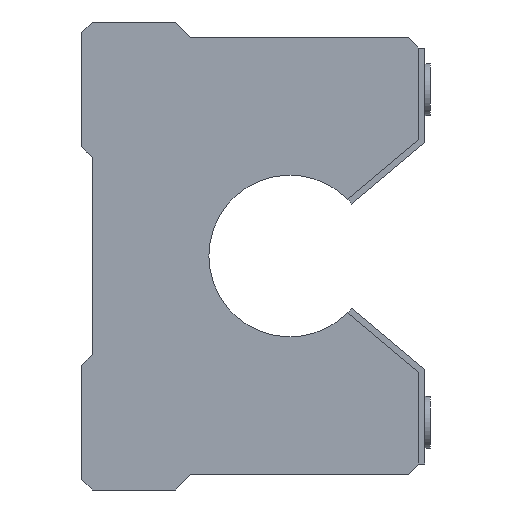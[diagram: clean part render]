
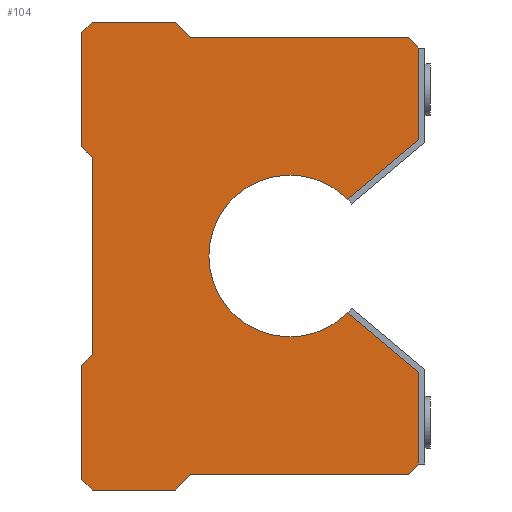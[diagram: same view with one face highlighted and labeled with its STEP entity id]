
A CAD part, left-side view. The second image highlights one B-rep face of the part: STEP entity #104.
In plain terms, the highlighted planar face has unit normal (-1, 0, 0).
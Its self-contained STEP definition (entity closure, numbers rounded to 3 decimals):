
#104 = ADVANCED_FACE( '', ( #264 ), #265, .F. );
#264 = FACE_OUTER_BOUND( '', #536, .T. );
#265 = PLANE( '', #537 );
#536 = EDGE_LOOP( '', ( #989, #990, #991, #992, #993, #994, #995, #996, #997, #998, #999, #1000, #1001, #1002, #1003, #1004, #1005, #1006, #1007, #1008 ) );
#537 = AXIS2_PLACEMENT_3D( '', #1009, #1010, #1011 );
#989 = ORIENTED_EDGE( '', *, *, #1823, .F. );
#990 = ORIENTED_EDGE( '', *, *, #1862, .F. );
#991 = ORIENTED_EDGE( '', *, *, #1857, .F. );
#992 = ORIENTED_EDGE( '', *, *, #1854, .F. );
#993 = ORIENTED_EDGE( '', *, *, #1851, .F. );
#994 = ORIENTED_EDGE( '', *, *, #1848, .F. );
#995 = ORIENTED_EDGE( '', *, *, #1843, .F. );
#996 = ORIENTED_EDGE( '', *, *, #1840, .F. );
#997 = ORIENTED_EDGE( '', *, *, #1837, .F. );
#998 = ORIENTED_EDGE( '', *, *, #1834, .F. );
#999 = ORIENTED_EDGE( '', *, *, #1831, .F. );
#1000 = ORIENTED_EDGE( '', *, *, #1785, .F. );
#1001 = ORIENTED_EDGE( '', *, *, #1782, .F. );
#1002 = ORIENTED_EDGE( '', *, *, #1794, .T. );
#1003 = ORIENTED_EDGE( '', *, *, #1828, .F. );
#1004 = ORIENTED_EDGE( '', *, *, #1830, .F. );
#1005 = ORIENTED_EDGE( '', *, *, #1809, .F. );
#1006 = ORIENTED_EDGE( '', *, *, #1814, .F. );
#1007 = ORIENTED_EDGE( '', *, *, #1817, .F. );
#1008 = ORIENTED_EDGE( '', *, *, #1820, .F. );
#1009 = CARTESIAN_POINT( '', ( -22.5, 0., 0. ) );
#1010 = DIRECTION( '', ( 1., 0., 0. ) );
#1011 = DIRECTION( '', ( 0., 0., -1. ) );
#1782 = EDGE_CURVE( '', #2135, #2137, #2138, .T. );
#1785 = EDGE_CURVE( '', #2137, #2141, #2142, .T. );
#1794 = EDGE_CURVE( '', #2135, #2156, #2157, .T. );
#1809 = EDGE_CURVE( '', #2181, #2182, #2183, .T. );
#1814 = EDGE_CURVE( '', #2190, #2181, #2191, .T. );
#1817 = EDGE_CURVE( '', #2195, #2190, #2196, .T. );
#1820 = EDGE_CURVE( '', #2200, #2195, #2201, .T. );
#1823 = EDGE_CURVE( '', #2205, #2200, #2206, .T. );
#1828 = EDGE_CURVE( '', #2212, #2156, #2214, .T. );
#1830 = EDGE_CURVE( '', #2182, #2212, #2216, .T. );
#1831 = EDGE_CURVE( '', #2141, #2217, #2218, .T. );
#1834 = EDGE_CURVE( '', #2217, #2222, #2223, .T. );
#1837 = EDGE_CURVE( '', #2222, #2227, #2228, .T. );
#1840 = EDGE_CURVE( '', #2227, #2232, #2233, .T. );
#1843 = EDGE_CURVE( '', #2232, #2237, #2238, .T. );
#1848 = EDGE_CURVE( '', #2237, #2246, #2247, .T. );
#1851 = EDGE_CURVE( '', #2246, #2251, #2252, .T. );
#1854 = EDGE_CURVE( '', #2251, #2256, #2257, .T. );
#1857 = EDGE_CURVE( '', #2256, #2261, #2262, .T. );
#1862 = EDGE_CURVE( '', #2261, #2205, #2270, .T. );
#2135 = VERTEX_POINT( '', #2692 );
#2137 = VERTEX_POINT( '', #2695 );
#2138 = LINE( '', #2696, #2697 );
#2141 = VERTEX_POINT( '', #2702 );
#2142 = LINE( '', #2703, #2704 );
#2156 = VERTEX_POINT( '', #2726 );
#2157 = CIRCLE( '', #2727, 7.779 );
#2181 = VERTEX_POINT( '', #2760 );
#2182 = VERTEX_POINT( '', #2761 );
#2183 = LINE( '', #2762, #2763 );
#2190 = VERTEX_POINT( '', #2774 );
#2191 = LINE( '', #2775, #2776 );
#2195 = VERTEX_POINT( '', #2782 );
#2196 = LINE( '', #2783, #2784 );
#2200 = VERTEX_POINT( '', #2790 );
#2201 = LINE( '', #2791, #2792 );
#2205 = VERTEX_POINT( '', #2798 );
#2206 = LINE( '', #2799, #2800 );
#2212 = VERTEX_POINT( '', #2809 );
#2214 = LINE( '', #2812, #2813 );
#2216 = LINE( '', #2816, #2817 );
#2217 = VERTEX_POINT( '', #2818 );
#2218 = LINE( '', #2819, #2820 );
#2222 = VERTEX_POINT( '', #2826 );
#2223 = LINE( '', #2827, #2828 );
#2227 = VERTEX_POINT( '', #2834 );
#2228 = LINE( '', #2835, #2836 );
#2232 = VERTEX_POINT( '', #2842 );
#2233 = LINE( '', #2843, #2844 );
#2237 = VERTEX_POINT( '', #2850 );
#2238 = LINE( '', #2851, #2852 );
#2246 = VERTEX_POINT( '', #2862 );
#2247 = LINE( '', #2863, #2864 );
#2251 = VERTEX_POINT( '', #2870 );
#2252 = LINE( '', #2871, #2872 );
#2256 = VERTEX_POINT( '', #2878 );
#2257 = LINE( '', #2879, #2880 );
#2261 = VERTEX_POINT( '', #2886 );
#2262 = LINE( '', #2887, #2888 );
#2270 = LINE( '', #2898, #2899 );
#2692 = CARTESIAN_POINT( '', ( -22.5, -5.555, -5.445 ) );
#2695 = CARTESIAN_POINT( '', ( -22.5, -12.4, -11.188 ) );
#2696 = CARTESIAN_POINT( '', ( -22.5, -5.555, -5.445 ) );
#2697 = VECTOR( '', #3408, 1000. );
#2702 = CARTESIAN_POINT( '', ( -22.5, -12.4, -20. ) );
#2703 = CARTESIAN_POINT( '', ( -22.5, -12.4, -11.188 ) );
#2704 = VECTOR( '', #3411, 1000. );
#2726 = CARTESIAN_POINT( '', ( -22.5, -5.555, 5.445 ) );
#2727 = AXIS2_PLACEMENT_3D( '', #3420, #3421, #3422 );
#2760 = CARTESIAN_POINT( '', ( -22.5, -11.4, 21. ) );
#2761 = CARTESIAN_POINT( '', ( -22.5, -12.4, 20. ) );
#2762 = CARTESIAN_POINT( '', ( -22.5, -11.4, 21. ) );
#2763 = VECTOR( '', #3447, 1000. );
#2774 = CARTESIAN_POINT( '', ( -22.5, 9.5, 21. ) );
#2775 = CARTESIAN_POINT( '', ( -22.5, 9.5, 21. ) );
#2776 = VECTOR( '', #3452, 1000. );
#2782 = CARTESIAN_POINT( '', ( -22.5, 11., 22.5 ) );
#2783 = CARTESIAN_POINT( '', ( -22.5, 11., 22.5 ) );
#2784 = VECTOR( '', #3455, 1000. );
#2790 = CARTESIAN_POINT( '', ( -22.5, 19., 22.5 ) );
#2791 = CARTESIAN_POINT( '', ( -22.5, 19., 22.5 ) );
#2792 = VECTOR( '', #3458, 1000. );
#2798 = CARTESIAN_POINT( '', ( -22.5, 20., 21.5 ) );
#2799 = CARTESIAN_POINT( '', ( -22.5, 20., 21.5 ) );
#2800 = VECTOR( '', #3461, 1000. );
#2809 = CARTESIAN_POINT( '', ( -22.5, -12.4, 11.188 ) );
#2812 = CARTESIAN_POINT( '', ( -22.5, -12.4, 11.188 ) );
#2813 = VECTOR( '', #3466, 1000. );
#2816 = CARTESIAN_POINT( '', ( -22.5, -12.4, 20. ) );
#2817 = VECTOR( '', #3468, 1000. );
#2818 = CARTESIAN_POINT( '', ( -22.5, -11.4, -21. ) );
#2819 = CARTESIAN_POINT( '', ( -22.5, -12.4, -20. ) );
#2820 = VECTOR( '', #3469, 1000. );
#2826 = CARTESIAN_POINT( '', ( -22.5, 9.5, -21. ) );
#2827 = CARTESIAN_POINT( '', ( -22.5, -11.4, -21. ) );
#2828 = VECTOR( '', #3472, 1000. );
#2834 = CARTESIAN_POINT( '', ( -22.5, 11., -22.5 ) );
#2835 = CARTESIAN_POINT( '', ( -22.5, 9.5, -21. ) );
#2836 = VECTOR( '', #3475, 1000. );
#2842 = CARTESIAN_POINT( '', ( -22.5, 19., -22.5 ) );
#2843 = CARTESIAN_POINT( '', ( -22.5, 11., -22.5 ) );
#2844 = VECTOR( '', #3478, 1000. );
#2850 = CARTESIAN_POINT( '', ( -22.5, 20., -21.5 ) );
#2851 = CARTESIAN_POINT( '', ( -22.5, 19., -22.5 ) );
#2852 = VECTOR( '', #3481, 1000. );
#2862 = CARTESIAN_POINT( '', ( -22.5, 20., -10.5 ) );
#2863 = CARTESIAN_POINT( '', ( -22.5, 20., -21.5 ) );
#2864 = VECTOR( '', #3490, 1000. );
#2870 = CARTESIAN_POINT( '', ( -22.5, 19., -9.5 ) );
#2871 = CARTESIAN_POINT( '', ( -22.5, 20., -10.5 ) );
#2872 = VECTOR( '', #3493, 1000. );
#2878 = CARTESIAN_POINT( '', ( -22.5, 19., 9.5 ) );
#2879 = CARTESIAN_POINT( '', ( -22.5, 19., -9.5 ) );
#2880 = VECTOR( '', #3496, 1000. );
#2886 = CARTESIAN_POINT( '', ( -22.5, 20., 10.5 ) );
#2887 = CARTESIAN_POINT( '', ( -22.5, 19., 9.5 ) );
#2888 = VECTOR( '', #3499, 1000. );
#2898 = CARTESIAN_POINT( '', ( -22.5, 20., 10.5 ) );
#2899 = VECTOR( '', #3508, 1000. );
#3408 = DIRECTION( '', ( 0., -0.766, -0.643 ) );
#3411 = DIRECTION( '', ( 0., 0., -1. ) );
#3420 = CARTESIAN_POINT( '', ( -22.5, 0., 0. ) );
#3421 = DIRECTION( '', ( 1., 0., 0. ) );
#3422 = DIRECTION( '', ( 0., 0., -1. ) );
#3447 = DIRECTION( '', ( 0., -0.707, -0.707 ) );
#3452 = DIRECTION( '', ( 0., -1., 0. ) );
#3455 = DIRECTION( '', ( 0., -0.707, -0.707 ) );
#3458 = DIRECTION( '', ( 0., -1., 0. ) );
#3461 = DIRECTION( '', ( 0., -0.707, 0.707 ) );
#3466 = DIRECTION( '', ( 0., 0.766, -0.643 ) );
#3468 = DIRECTION( '', ( 0., 0., -1. ) );
#3469 = DIRECTION( '', ( 0., 0.707, -0.707 ) );
#3472 = DIRECTION( '', ( 0., 1., 0. ) );
#3475 = DIRECTION( '', ( 0., 0.707, -0.707 ) );
#3478 = DIRECTION( '', ( 0., 1., 0. ) );
#3481 = DIRECTION( '', ( 0., 0.707, 0.707 ) );
#3490 = DIRECTION( '', ( 0., 0., 1. ) );
#3493 = DIRECTION( '', ( 0., -0.707, 0.707 ) );
#3496 = DIRECTION( '', ( 0., 0., 1. ) );
#3499 = DIRECTION( '', ( 0., 0.707, 0.707 ) );
#3508 = DIRECTION( '', ( 0., 0., 1. ) );
